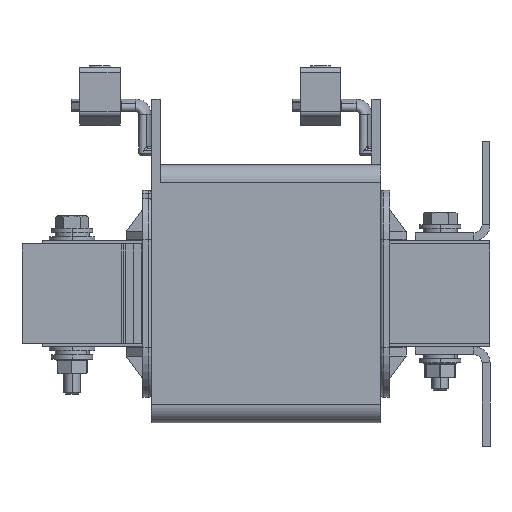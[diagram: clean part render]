
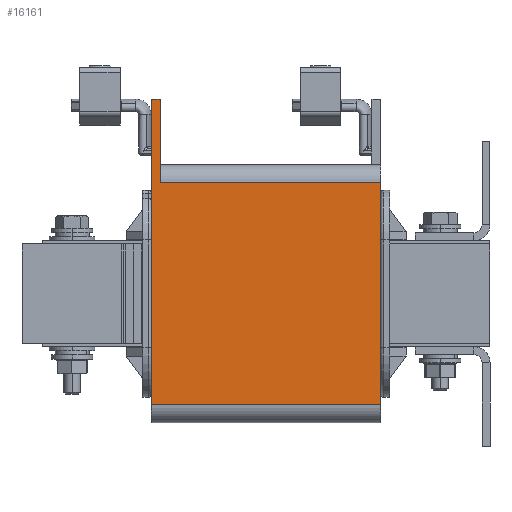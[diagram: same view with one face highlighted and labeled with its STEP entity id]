
A CAD part, left-side view. The second image highlights one B-rep face of the part: STEP entity #16161.
In plain terms, the highlighted planar face has unit normal (-1, 0, 0).
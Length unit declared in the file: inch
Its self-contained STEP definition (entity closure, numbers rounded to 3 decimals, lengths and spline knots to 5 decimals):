
#704 = VECTOR ( 'NONE', #35712, 39.37008 ) ;
#1032 = LINE ( 'NONE', #38110, #6268 ) ;
#1382 = DIRECTION ( 'NONE',  ( 0., 0., 1. ) ) ;
#3694 = EDGE_LOOP ( 'NONE', ( #32222, #32766, #36409, #16876, #41862, #21782 ) ) ;
#4154 = LINE ( 'NONE', #37514, #24560 ) ;
#4469 = VECTOR ( 'NONE', #31562, 39.37008 ) ;
#4545 = EDGE_CURVE ( 'NONE', #7791, #10200, #15129, .T. ) ;
#4670 = DIRECTION ( 'NONE',  ( -1., 0., 0. ) ) ;
#6268 = VECTOR ( 'NONE', #42030, 39.37008 ) ;
#7284 = CARTESIAN_POINT ( 'NONE',  ( -1.3024, -1.73, 1.6752 ) ) ;
#7791 = VERTEX_POINT ( 'NONE', #11753 ) ;
#10200 = VERTEX_POINT ( 'NONE', #21358 ) ;
#10685 = EDGE_CURVE ( 'NONE', #36390, #32262, #15392, .T. ) ;
#10740 = VECTOR ( 'NONE', #41310, 39.37008 ) ;
#10935 = PLANE ( 'NONE',  #37682 ) ;
#11753 = CARTESIAN_POINT ( 'NONE',  ( -1.3024, -1.73, -1.6752 ) ) ;
#12012 = CARTESIAN_POINT ( 'NONE',  ( -1.3024, -1.73, 1.6752 ) ) ;
#12761 = LINE ( 'NONE', #34466, #4469 ) ;
#13079 = CARTESIAN_POINT ( 'NONE',  ( -1.3024, 1.73, 2.935 ) ) ;
#15129 = LINE ( 'NONE', #23511, #41579 ) ;
#15392 = LINE ( 'NONE', #12012, #10740 ) ;
#16161 = ADVANCED_FACE ( 'NONE', ( #22400 ), #10935, .T. ) ;
#16876 = ORIENTED_EDGE ( 'NONE', *, *, #10685, .T. ) ;
#17026 = DIRECTION ( 'NONE',  ( 0., 1., 0. ) ) ;
#18000 = CARTESIAN_POINT ( 'NONE',  ( -1.3024, 1.5952, 1.6752 ) ) ;
#21358 = CARTESIAN_POINT ( 'NONE',  ( -1.3024, 1.73, -1.6752 ) ) ;
#21782 = ORIENTED_EDGE ( 'NONE', *, *, #41276, .F. ) ;
#22286 = VERTEX_POINT ( 'NONE', #41012 ) ;
#22400 = FACE_OUTER_BOUND ( 'NONE', #3694, .T. ) ;
#23511 = CARTESIAN_POINT ( 'NONE',  ( -1.3024, -1.73, -1.6752 ) ) ;
#23516 = LINE ( 'NONE', #13079, #704 ) ;
#24560 = VECTOR ( 'NONE', #1382, 39.37008 ) ;
#24578 = EDGE_CURVE ( 'NONE', #7791, #36390, #4154, .T. ) ;
#30982 = DIRECTION ( 'NONE',  ( 0., 0., 1. ) ) ;
#31562 = DIRECTION ( 'NONE',  ( 0., 0., 1. ) ) ;
#31958 = EDGE_CURVE ( 'NONE', #32262, #22286, #12761, .T. ) ;
#32222 = ORIENTED_EDGE ( 'NONE', *, *, #37825, .F. ) ;
#32262 = VERTEX_POINT ( 'NONE', #18000 ) ;
#32766 = ORIENTED_EDGE ( 'NONE', *, *, #4545, .F. ) ;
#34141 = CARTESIAN_POINT ( 'NONE',  ( -1.3024, -1.73, -1.6752 ) ) ;
#34466 = CARTESIAN_POINT ( 'NONE',  ( -1.3024, 1.5952, -1.94484 ) ) ;
#35712 = DIRECTION ( 'NONE',  ( 0., -1., 0. ) ) ;
#36390 = VERTEX_POINT ( 'NONE', #7284 ) ;
#36409 = ORIENTED_EDGE ( 'NONE', *, *, #24578, .T. ) ;
#37514 = CARTESIAN_POINT ( 'NONE',  ( -1.3024, -1.73, -1.6752 ) ) ;
#37682 = AXIS2_PLACEMENT_3D ( 'NONE', #34141, #4670, #30982 ) ;
#37825 = EDGE_CURVE ( 'NONE', #10200, #38768, #1032, .T. ) ;
#38110 = CARTESIAN_POINT ( 'NONE',  ( -1.3024, 1.73, -1.6752 ) ) ;
#38768 = VERTEX_POINT ( 'NONE', #41011 ) ;
#41011 = CARTESIAN_POINT ( 'NONE',  ( -1.3024, 1.73, 2.935 ) ) ;
#41012 = CARTESIAN_POINT ( 'NONE',  ( -1.3024, 1.5952, 2.935 ) ) ;
#41276 = EDGE_CURVE ( 'NONE', #38768, #22286, #23516, .T. ) ;
#41310 = DIRECTION ( 'NONE',  ( 0., 1., 0. ) ) ;
#41579 = VECTOR ( 'NONE', #17026, 39.37008 ) ;
#41862 = ORIENTED_EDGE ( 'NONE', *, *, #31958, .T. ) ;
#42030 = DIRECTION ( 'NONE',  ( 0., 0., 1. ) ) ;
